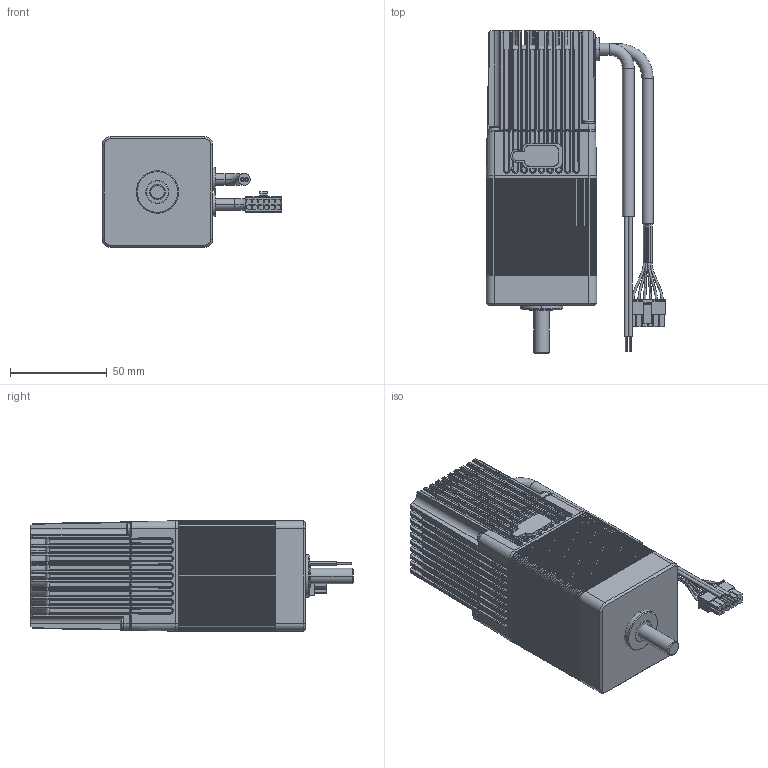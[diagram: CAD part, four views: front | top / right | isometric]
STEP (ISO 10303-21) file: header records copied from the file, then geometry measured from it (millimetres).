
FILE_DESCRIPTION((''),'2;1');
FILE_NAME('ENV_SIMP_STEP_TEMP','2012-10-24T',('VALJBL1'),('CROUZET-AUTOMATISMES'),'PRO/ENGINEER BY PARAMETRIC TECHNOLOGY CORPORATION, 2012090','PRO/ENGINEER BY PARAMETRIC TECHNOLOGY CORPORATION, 2012090','');
FILE_SCHEMA(('CONFIG_CONTROL_DESIGN'));
Products named in the file (1): ENV_SIMP_STEP_TEMP
Bounding box: 93.02 x 167.05 x 57.2 mm (x, y, z)
Surface area: 96745.9 mm2 (no closed solid volume)
Topology: 0 solids, 357 shells, 3279 faces, 9976 edges, 6938 vertices
Faces by surface type: plane 1559, cylinder 1436, bspline 107, torus 76, sphere 72, cone 29
Entity records: 117027 total; most frequent: CARTESIAN_POINT 33087, DIRECTION 16827, ORIENTED_EDGE 15615, EDGE_CURVE 9976, VERTEX_POINT 6938, VECTOR 5991, LINE 5991, AXIS2_PLACEMENT_3D 5418
